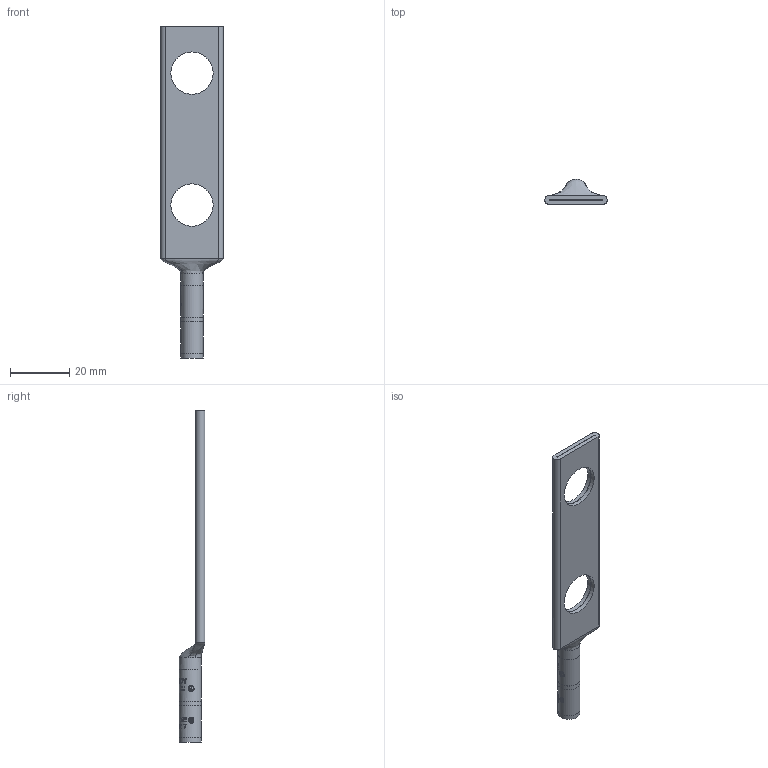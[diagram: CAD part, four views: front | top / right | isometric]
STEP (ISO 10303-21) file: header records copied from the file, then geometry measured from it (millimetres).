
FILE_DESCRIPTION((''),'2;1');
FILE_NAME('C:\_Vault\BURNDY\Projects\ENG Services\SR0182\502212_MODEL-STEP.stp','2013-09-23T11:09:08',('ssukumar'),(''),'Autodesk Inventor 2012','Autodesk Inventor 2012','');
FILE_SCHEMA(('AUTOMOTIVE_DESIGN { 1 0 10303 214 1 1 1 1 }'));
Length unit declared in the file: inch
Products named in the file (1): 502212
Bounding box: 20.98 x 8.64 x 111.86 mm (x, y, z)
Volume: 4587.2 mm3; surface area: 6930.9 mm2
Topology: 1 solids, 1 shells, 784 faces, 2132 edges, 1423 vertices
Faces by surface type: bspline 396, plane 302, cylinder 85, cone 1
Full cylindrical faces by diameter (mm): 2.484 x1, 3.048 x1, 5.029 x1, 7.417 x3, 7.468 x2, 14.275 x4
Entity records: 69035 total; most frequent: CARTESIAN_POINT 51617, ORIENTED_EDGE 4202, DIRECTION 2155, EDGE_CURVE 2101, VERTEX_POINT 1410, VECTOR 991, LINE 991, EDGE_LOOP 879
